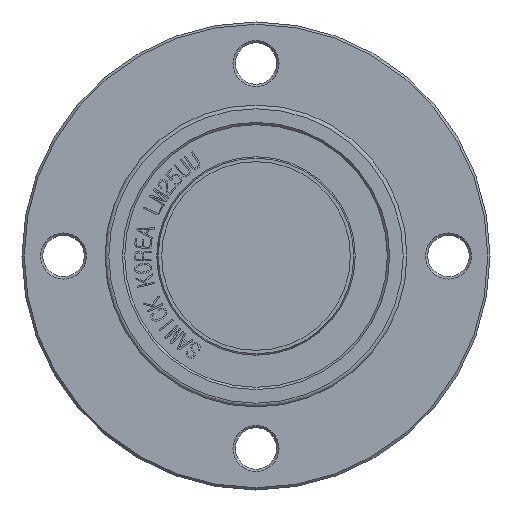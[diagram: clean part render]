
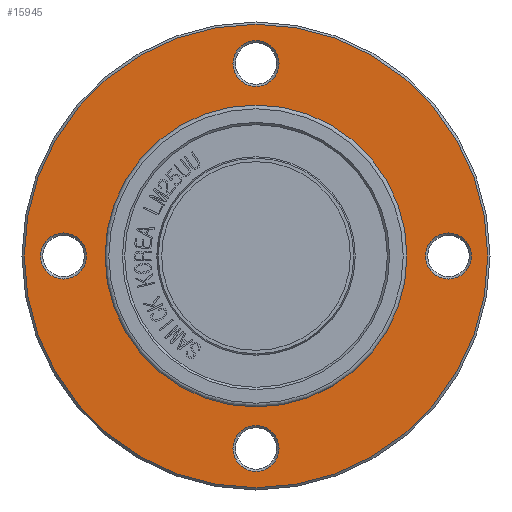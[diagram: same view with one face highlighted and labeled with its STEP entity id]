
A CAD part, front view. The second image highlights one B-rep face of the part: STEP entity #15945.
In plain terms, the highlighted planar face has unit normal (0, -1, 0).
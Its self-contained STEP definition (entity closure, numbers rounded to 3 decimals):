
#2285=FACE_BOUND('',#3463,.T.);
#2286=FACE_BOUND('',#3464,.T.);
#2287=FACE_BOUND('',#3465,.T.);
#2288=FACE_BOUND('',#3466,.T.);
#2289=FACE_BOUND('',#3467,.T.);
#2343=PLANE('',#16856);
#2580=FACE_OUTER_BOUND('',#3462,.T.);
#3462=EDGE_LOOP('',(#10988,#10989));
#3463=EDGE_LOOP('',(#10990));
#3464=EDGE_LOOP('',(#10991));
#3465=EDGE_LOOP('',(#10992,#10993));
#3466=EDGE_LOOP('',(#10994));
#3467=EDGE_LOOP('',(#10995));
#6754=CIRCLE('',#16854,3.05);
#6756=CIRCLE('',#16857,30.7);
#6757=CIRCLE('',#16858,30.7);
#6758=CIRCLE('',#16859,3.05);
#6759=CIRCLE('',#16860,3.05);
#6760=CIRCLE('',#16861,20.);
#6761=CIRCLE('',#16862,20.);
#6762=CIRCLE('',#16863,3.05);
#6836=VERTEX_POINT('',#19087);
#6838=VERTEX_POINT('',#19093);
#6839=VERTEX_POINT('',#19094);
#6840=VERTEX_POINT('',#19097);
#6841=VERTEX_POINT('',#19099);
#6842=VERTEX_POINT('',#19101);
#6843=VERTEX_POINT('',#19102);
#6844=VERTEX_POINT('',#19105);
#8498=EDGE_CURVE('',#6836,#6836,#6754,.T.);
#8501=EDGE_CURVE('',#6838,#6839,#6756,.T.);
#8502=EDGE_CURVE('',#6839,#6838,#6757,.T.);
#8503=EDGE_CURVE('',#6840,#6840,#6758,.T.);
#8504=EDGE_CURVE('',#6841,#6841,#6759,.T.);
#8505=EDGE_CURVE('',#6842,#6843,#6760,.T.);
#8506=EDGE_CURVE('',#6843,#6842,#6761,.T.);
#8507=EDGE_CURVE('',#6844,#6844,#6762,.T.);
#10988=ORIENTED_EDGE('',*,*,#8501,.T.);
#10989=ORIENTED_EDGE('',*,*,#8502,.T.);
#10990=ORIENTED_EDGE('',*,*,#8503,.F.);
#10991=ORIENTED_EDGE('',*,*,#8504,.F.);
#10992=ORIENTED_EDGE('',*,*,#8505,.F.);
#10993=ORIENTED_EDGE('',*,*,#8506,.F.);
#10994=ORIENTED_EDGE('',*,*,#8507,.F.);
#10995=ORIENTED_EDGE('',*,*,#8498,.F.);
#15945=ADVANCED_FACE('',(#2580,#2285,#2286,#2287,#2288,#2289),#2343,.T.);
#16854=AXIS2_PLACEMENT_3D('',#19088,#17221,#17222);
#16856=AXIS2_PLACEMENT_3D('',#19092,#17226,#17227);
#16857=AXIS2_PLACEMENT_3D('',#19095,#17228,#17229);
#16858=AXIS2_PLACEMENT_3D('',#19096,#17230,#17231);
#16859=AXIS2_PLACEMENT_3D('',#19098,#17232,#17233);
#16860=AXIS2_PLACEMENT_3D('',#19100,#17234,#17235);
#16861=AXIS2_PLACEMENT_3D('',#19103,#17236,#17237);
#16862=AXIS2_PLACEMENT_3D('',#19104,#17238,#17239);
#16863=AXIS2_PLACEMENT_3D('',#19106,#17240,#17241);
#17221=DIRECTION('center_axis',(0.,-1.,0.));
#17222=DIRECTION('ref_axis',(0.,0.,-1.));
#17226=DIRECTION('center_axis',(0.,-1.,0.));
#17227=DIRECTION('ref_axis',(0.,0.,-1.));
#17228=DIRECTION('center_axis',(0.,-1.,0.));
#17229=DIRECTION('ref_axis',(1.,0.,0.));
#17230=DIRECTION('center_axis',(0.,-1.,0.));
#17231=DIRECTION('ref_axis',(1.,0.,0.));
#17232=DIRECTION('center_axis',(0.,-1.,0.));
#17233=DIRECTION('ref_axis',(1.,0.,0.));
#17234=DIRECTION('center_axis',(0.,-1.,0.));
#17235=DIRECTION('ref_axis',(-1.,0.,0.));
#17236=DIRECTION('center_axis',(0.,-1.,0.));
#17237=DIRECTION('ref_axis',(1.,0.,0.));
#17238=DIRECTION('center_axis',(0.,-1.,0.));
#17239=DIRECTION('ref_axis',(1.,0.,0.));
#17240=DIRECTION('center_axis',(0.,-1.,0.));
#17241=DIRECTION('ref_axis',(0.,0.,
1.));
#19087=CARTESIAN_POINT('',(0.,40.,-22.45));
#19088=CARTESIAN_POINT('Origin',(0.,40.,-25.5));
#19092=CARTESIAN_POINT('Origin',(20.,40.,0.));
#19093=CARTESIAN_POINT('',(30.7,40.,0.));
#19094=CARTESIAN_POINT('',(-30.7,40.,0.));
#19095=CARTESIAN_POINT('Origin',(0.,40.,0.));
#19096=CARTESIAN_POINT('Origin',(0.,40.,0.));
#19097=CARTESIAN_POINT('',(22.45,40.,0.));
#19098=CARTESIAN_POINT('Origin',(25.5,40.,0.));
#19099=CARTESIAN_POINT('',(-22.45,40.,0.));
#19100=CARTESIAN_POINT('Origin',(-25.5,40.,0.));
#19101=CARTESIAN_POINT('',(20.,40.,0.));
#19102=CARTESIAN_POINT('',(-20.,40.,0.));
#19103=CARTESIAN_POINT('Origin',(0.,40.,0.));
#19104=CARTESIAN_POINT('Origin',(0.,40.,0.));
#19105=CARTESIAN_POINT('',(0.,40.,22.45));
#19106=CARTESIAN_POINT('Origin',(0.,40.,25.5));
